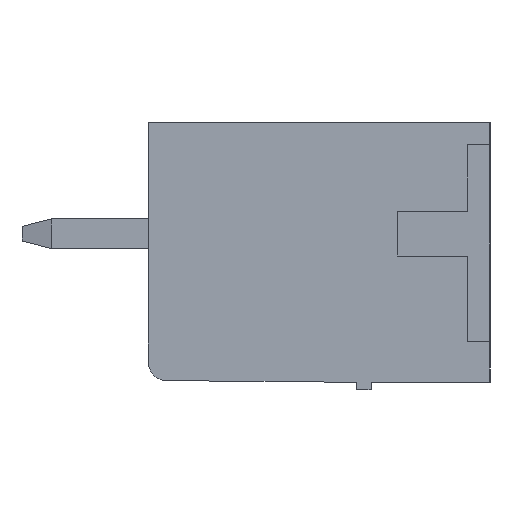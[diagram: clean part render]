
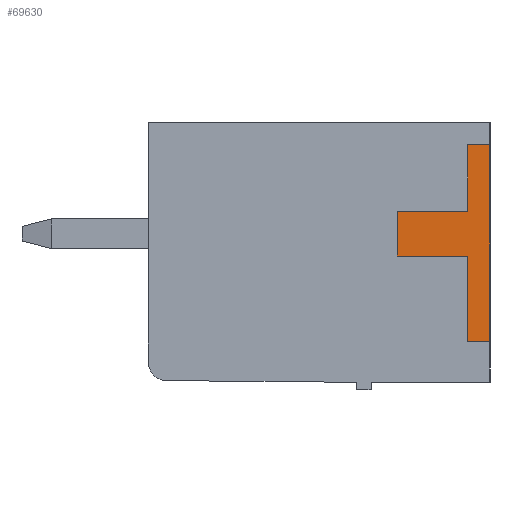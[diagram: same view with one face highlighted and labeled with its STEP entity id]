
A CAD part, left-side view. The second image highlights one B-rep face of the part: STEP entity #69630.
In plain terms, the highlighted planar face has unit normal (-1, 0, 0).
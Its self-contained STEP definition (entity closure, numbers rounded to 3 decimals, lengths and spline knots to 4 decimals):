
#100 = PLANE('',#101);
#101 = AXIS2_PLACEMENT_3D('',#102,#103,#104);
#102 = CARTESIAN_POINT('',(0.,0.,7.));
#103 = DIRECTION('',(0.,-1.,0.));
#104 = DIRECTION('',(0.,0.,-1.));
#128 = PLANE('',#129);
#129 = AXIS2_PLACEMENT_3D('',#130,#131,#132);
#130 = CARTESIAN_POINT('',(0.,0.,6.4));
#131 = DIRECTION('',(0.,0.,1.));
#132 = DIRECTION('',(0.,1.,0.));
#156 = PLANE('',#157);
#157 = AXIS2_PLACEMENT_3D('',#158,#159,#160);
#158 = CARTESIAN_POINT('',(0.,0.6,6.4));
#159 = DIRECTION('',(0.,1.,0.));
#160 = DIRECTION('',(0.,0.,-1.));
#184 = PLANE('',#185);
#185 = AXIS2_PLACEMENT_3D('',#186,#187,#188);
#186 = CARTESIAN_POINT('',(0.,0.6,4.6));
#187 = DIRECTION('',(0.,0.,1.));
#188 = DIRECTION('',(0.,1.,0.));
#212 = PLANE('',#213);
#213 = AXIS2_PLACEMENT_3D('',#214,#215,#216);
#214 = CARTESIAN_POINT('',(0.,2.5,4.6));
#215 = DIRECTION('',(0.,1.,0.));
#216 = DIRECTION('',(0.,0.,-1.));
#240 = PLANE('',#241);
#241 = AXIS2_PLACEMENT_3D('',#242,#243,#244);
#242 = CARTESIAN_POINT('',(0.,2.5,3.4));
#243 = DIRECTION('',(0.,0.,-1.));
#244 = DIRECTION('',(0.,-1.,0.));
#268 = PLANE('',#269);
#269 = AXIS2_PLACEMENT_3D('',#270,#271,#272);
#270 = CARTESIAN_POINT('',(0.,0.6,3.4));
#271 = DIRECTION('',(0.,1.,0.));
#272 = DIRECTION('',(0.,0.,-1.));
#296 = PLANE('',#297);
#297 = AXIS2_PLACEMENT_3D('',#298,#299,#300);
#298 = CARTESIAN_POINT('',(0.,0.6,1.1));
#299 = DIRECTION('',(0.,0.,-1.));
#300 = DIRECTION('',(0.,-1.,0.));
#8579 = VERTEX_POINT('',#8580);
#8580 = CARTESIAN_POINT('',(-0.2,0.,1.1));
#8601 = EDGE_CURVE('',#8579,#8602,#8604,.T.);
#8602 = VERTEX_POINT('',#8603);
#8603 = CARTESIAN_POINT('',(-0.2,0.,6.4));
#8604 = SURFACE_CURVE('',#8605,(#8609,#8616),.PCURVE_S1.);
#8605 = LINE('',#8606,#8607);
#8606 = CARTESIAN_POINT('',(-0.2,0.,1.1));
#8607 = VECTOR('',#8608,1.);
#8608 = DIRECTION('',(0.,0.,1.));
#8609 = PCURVE('',#100,#8610);
#8610 = DEFINITIONAL_REPRESENTATION('',(#8611),#8615);
#8611 = LINE('',#8612,#8613);
#8612 = CARTESIAN_POINT('',(5.9,-0.2));
#8613 = VECTOR('',#8614,1.);
#8614 = DIRECTION('',(-1.,0.));
#8615 = ( GEOMETRIC_REPRESENTATION_CONTEXT(2) 
PARAMETRIC_REPRESENTATION_CONTEXT() REPRESENTATION_CONTEXT('2D SPACE',''
  ) );
#8616 = PCURVE('',#8617,#8622);
#8617 = PLANE('',#8618);
#8618 = AXIS2_PLACEMENT_3D('',#8619,#8620,#8621);
#8619 = CARTESIAN_POINT('',(-0.2,0.,0.));
#8620 = DIRECTION('',(-1.,0.,0.));
#8621 = DIRECTION('',(0.,0.,1.));
#8622 = DEFINITIONAL_REPRESENTATION('',(#8623),#8627);
#8623 = LINE('',#8624,#8625);
#8624 = CARTESIAN_POINT('',(1.1,0.));
#8625 = VECTOR('',#8626,1.);
#8626 = DIRECTION('',(1.,0.));
#8627 = ( GEOMETRIC_REPRESENTATION_CONTEXT(2) 
PARAMETRIC_REPRESENTATION_CONTEXT() REPRESENTATION_CONTEXT('2D SPACE',''
  ) );
#69315 = VERTEX_POINT('',#69316);
#69316 = CARTESIAN_POINT('',(-0.2,0.6,1.1));
#69337 = EDGE_CURVE('',#69315,#8579,#69338,.T.);
#69338 = SURFACE_CURVE('',#69339,(#69343,#69350),.PCURVE_S1.);
#69339 = LINE('',#69340,#69341);
#69340 = CARTESIAN_POINT('',(-0.2,0.6,1.1));
#69341 = VECTOR('',#69342,1.);
#69342 = DIRECTION('',(0.,-1.,0.));
#69343 = PCURVE('',#296,#69344);
#69344 = DEFINITIONAL_REPRESENTATION('',(#69345),#69349);
#69345 = LINE('',#69346,#69347);
#69346 = CARTESIAN_POINT('',(0.,0.2));
#69347 = VECTOR('',#69348,1.);
#69348 = DIRECTION('',(1.,0.));
#69349 = ( GEOMETRIC_REPRESENTATION_CONTEXT(2) 
PARAMETRIC_REPRESENTATION_CONTEXT() REPRESENTATION_CONTEXT('2D SPACE',''
  ) );
#69350 = PCURVE('',#8617,#69351);
#69351 = DEFINITIONAL_REPRESENTATION('',(#69352),#69356);
#69352 = LINE('',#69353,#69354);
#69353 = CARTESIAN_POINT('',(1.1,0.6));
#69354 = VECTOR('',#69355,1.);
#69355 = DIRECTION('',(0.,-1.));
#69356 = ( GEOMETRIC_REPRESENTATION_CONTEXT(2) 
PARAMETRIC_REPRESENTATION_CONTEXT() REPRESENTATION_CONTEXT('2D SPACE',''
  ) );
#69364 = VERTEX_POINT('',#69365);
#69365 = CARTESIAN_POINT('',(-0.2,0.6,3.4));
#69386 = EDGE_CURVE('',#69364,#69315,#69387,.T.);
#69387 = SURFACE_CURVE('',#69388,(#69392,#69399),.PCURVE_S1.);
#69388 = LINE('',#69389,#69390);
#69389 = CARTESIAN_POINT('',(-0.2,0.6,3.4));
#69390 = VECTOR('',#69391,1.);
#69391 = DIRECTION('',(0.,0.,-1.));
#69392 = PCURVE('',#268,#69393);
#69393 = DEFINITIONAL_REPRESENTATION('',(#69394),#69398);
#69394 = LINE('',#69395,#69396);
#69395 = CARTESIAN_POINT('',(0.,0.2));
#69396 = VECTOR('',#69397,1.);
#69397 = DIRECTION('',(1.,0.));
#69398 = ( GEOMETRIC_REPRESENTATION_CONTEXT(2) 
PARAMETRIC_REPRESENTATION_CONTEXT() REPRESENTATION_CONTEXT('2D SPACE',''
  ) );
#69399 = PCURVE('',#8617,#69400);
#69400 = DEFINITIONAL_REPRESENTATION('',(#69401),#69405);
#69401 = LINE('',#69402,#69403);
#69402 = CARTESIAN_POINT('',(3.4,0.6));
#69403 = VECTOR('',#69404,1.);
#69404 = DIRECTION('',(-1.,0.));
#69405 = ( GEOMETRIC_REPRESENTATION_CONTEXT(2) 
PARAMETRIC_REPRESENTATION_CONTEXT() REPRESENTATION_CONTEXT('2D SPACE',''
  ) );
#69413 = VERTEX_POINT('',#69414);
#69414 = CARTESIAN_POINT('',(-0.2,2.5,3.4));
#69435 = EDGE_CURVE('',#69413,#69364,#69436,.T.);
#69436 = SURFACE_CURVE('',#69437,(#69441,#69448),.PCURVE_S1.);
#69437 = LINE('',#69438,#69439);
#69438 = CARTESIAN_POINT('',(-0.2,2.5,3.4));
#69439 = VECTOR('',#69440,1.);
#69440 = DIRECTION('',(0.,-1.,0.));
#69441 = PCURVE('',#240,#69442);
#69442 = DEFINITIONAL_REPRESENTATION('',(#69443),#69447);
#69443 = LINE('',#69444,#69445);
#69444 = CARTESIAN_POINT('',(0.,0.2));
#69445 = VECTOR('',#69446,1.);
#69446 = DIRECTION('',(1.,0.));
#69447 = ( GEOMETRIC_REPRESENTATION_CONTEXT(2) 
PARAMETRIC_REPRESENTATION_CONTEXT() REPRESENTATION_CONTEXT('2D SPACE',''
  ) );
#69448 = PCURVE('',#8617,#69449);
#69449 = DEFINITIONAL_REPRESENTATION('',(#69450),#69454);
#69450 = LINE('',#69451,#69452);
#69451 = CARTESIAN_POINT('',(3.4,2.5));
#69452 = VECTOR('',#69453,1.);
#69453 = DIRECTION('',(0.,-1.));
#69454 = ( GEOMETRIC_REPRESENTATION_CONTEXT(2) 
PARAMETRIC_REPRESENTATION_CONTEXT() REPRESENTATION_CONTEXT('2D SPACE',''
  ) );
#69462 = VERTEX_POINT('',#69463);
#69463 = CARTESIAN_POINT('',(-0.2,2.5,4.6));
#69484 = EDGE_CURVE('',#69462,#69413,#69485,.T.);
#69485 = SURFACE_CURVE('',#69486,(#69490,#69497),.PCURVE_S1.);
#69486 = LINE('',#69487,#69488);
#69487 = CARTESIAN_POINT('',(-0.2,2.5,4.6));
#69488 = VECTOR('',#69489,1.);
#69489 = DIRECTION('',(0.,0.,-1.));
#69490 = PCURVE('',#212,#69491);
#69491 = DEFINITIONAL_REPRESENTATION('',(#69492),#69496);
#69492 = LINE('',#69493,#69494);
#69493 = CARTESIAN_POINT('',(0.,0.2));
#69494 = VECTOR('',#69495,1.);
#69495 = DIRECTION('',(1.,0.));
#69496 = ( GEOMETRIC_REPRESENTATION_CONTEXT(2) 
PARAMETRIC_REPRESENTATION_CONTEXT() REPRESENTATION_CONTEXT('2D SPACE',''
  ) );
#69497 = PCURVE('',#8617,#69498);
#69498 = DEFINITIONAL_REPRESENTATION('',(#69499),#69503);
#69499 = LINE('',#69500,#69501);
#69500 = CARTESIAN_POINT('',(4.6,2.5));
#69501 = VECTOR('',#69502,1.);
#69502 = DIRECTION('',(-1.,0.));
#69503 = ( GEOMETRIC_REPRESENTATION_CONTEXT(2) 
PARAMETRIC_REPRESENTATION_CONTEXT() REPRESENTATION_CONTEXT('2D SPACE',''
  ) );
#69511 = VERTEX_POINT('',#69512);
#69512 = CARTESIAN_POINT('',(-0.2,0.6,4.6));
#69533 = EDGE_CURVE('',#69511,#69462,#69534,.T.);
#69534 = SURFACE_CURVE('',#69535,(#69539,#69546),.PCURVE_S1.);
#69535 = LINE('',#69536,#69537);
#69536 = CARTESIAN_POINT('',(-0.2,0.6,4.6));
#69537 = VECTOR('',#69538,1.);
#69538 = DIRECTION('',(0.,1.,0.));
#69539 = PCURVE('',#184,#69540);
#69540 = DEFINITIONAL_REPRESENTATION('',(#69541),#69545);
#69541 = LINE('',#69542,#69543);
#69542 = CARTESIAN_POINT('',(0.,0.2));
#69543 = VECTOR('',#69544,1.);
#69544 = DIRECTION('',(1.,0.));
#69545 = ( GEOMETRIC_REPRESENTATION_CONTEXT(2) 
PARAMETRIC_REPRESENTATION_CONTEXT() REPRESENTATION_CONTEXT('2D SPACE',''
  ) );
#69546 = PCURVE('',#8617,#69547);
#69547 = DEFINITIONAL_REPRESENTATION('',(#69548),#69552);
#69548 = LINE('',#69549,#69550);
#69549 = CARTESIAN_POINT('',(4.6,0.6));
#69550 = VECTOR('',#69551,1.);
#69551 = DIRECTION('',(0.,1.));
#69552 = ( GEOMETRIC_REPRESENTATION_CONTEXT(2) 
PARAMETRIC_REPRESENTATION_CONTEXT() REPRESENTATION_CONTEXT('2D SPACE',''
  ) );
#69560 = VERTEX_POINT('',#69561);
#69561 = CARTESIAN_POINT('',(-0.2,0.6,6.4));
#69582 = EDGE_CURVE('',#69560,#69511,#69583,.T.);
#69583 = SURFACE_CURVE('',#69584,(#69588,#69595),.PCURVE_S1.);
#69584 = LINE('',#69585,#69586);
#69585 = CARTESIAN_POINT('',(-0.2,0.6,6.4));
#69586 = VECTOR('',#69587,1.);
#69587 = DIRECTION('',(0.,0.,-1.));
#69588 = PCURVE('',#156,#69589);
#69589 = DEFINITIONAL_REPRESENTATION('',(#69590),#69594);
#69590 = LINE('',#69591,#69592);
#69591 = CARTESIAN_POINT('',(0.,0.2));
#69592 = VECTOR('',#69593,1.);
#69593 = DIRECTION('',(1.,0.));
#69594 = ( GEOMETRIC_REPRESENTATION_CONTEXT(2) 
PARAMETRIC_REPRESENTATION_CONTEXT() REPRESENTATION_CONTEXT('2D SPACE',''
  ) );
#69595 = PCURVE('',#8617,#69596);
#69596 = DEFINITIONAL_REPRESENTATION('',(#69597),#69601);
#69597 = LINE('',#69598,#69599);
#69598 = CARTESIAN_POINT('',(6.4,0.6));
#69599 = VECTOR('',#69600,1.);
#69600 = DIRECTION('',(-1.,0.));
#69601 = ( GEOMETRIC_REPRESENTATION_CONTEXT(2) 
PARAMETRIC_REPRESENTATION_CONTEXT() REPRESENTATION_CONTEXT('2D SPACE',''
  ) );
#69609 = EDGE_CURVE('',#8602,#69560,#69610,.T.);
#69610 = SURFACE_CURVE('',#69611,(#69615,#69622),.PCURVE_S1.);
#69611 = LINE('',#69612,#69613);
#69612 = CARTESIAN_POINT('',(-0.2,0.,6.4));
#69613 = VECTOR('',#69614,1.);
#69614 = DIRECTION('',(0.,1.,0.));
#69615 = PCURVE('',#128,#69616);
#69616 = DEFINITIONAL_REPRESENTATION('',(#69617),#69621);
#69617 = LINE('',#69618,#69619);
#69618 = CARTESIAN_POINT('',(0.,0.2));
#69619 = VECTOR('',#69620,1.);
#69620 = DIRECTION('',(1.,0.));
#69621 = ( GEOMETRIC_REPRESENTATION_CONTEXT(2) 
PARAMETRIC_REPRESENTATION_CONTEXT() REPRESENTATION_CONTEXT('2D SPACE',''
  ) );
#69622 = PCURVE('',#8617,#69623);
#69623 = DEFINITIONAL_REPRESENTATION('',(#69624),#69628);
#69624 = LINE('',#69625,#69626);
#69625 = CARTESIAN_POINT('',(6.4,0.));
#69626 = VECTOR('',#69627,1.);
#69627 = DIRECTION('',(0.,1.));
#69628 = ( GEOMETRIC_REPRESENTATION_CONTEXT(2) 
PARAMETRIC_REPRESENTATION_CONTEXT() REPRESENTATION_CONTEXT('2D SPACE',''
  ) );
#69630 = ADVANCED_FACE('',(#69631),#8617,.T.);
#69631 = FACE_BOUND('',#69632,.F.);
#69632 = EDGE_LOOP('',(#69633,#69634,#69635,#69636,#69637,#69638,#69639,
    #69640));
#69633 = ORIENTED_EDGE('',*,*,#69609,.F.);
#69634 = ORIENTED_EDGE('',*,*,#8601,.F.);
#69635 = ORIENTED_EDGE('',*,*,#69337,.F.);
#69636 = ORIENTED_EDGE('',*,*,#69386,.F.);
#69637 = ORIENTED_EDGE('',*,*,#69435,.F.);
#69638 = ORIENTED_EDGE('',*,*,#69484,.F.);
#69639 = ORIENTED_EDGE('',*,*,#69533,.F.);
#69640 = ORIENTED_EDGE('',*,*,#69582,.F.);
